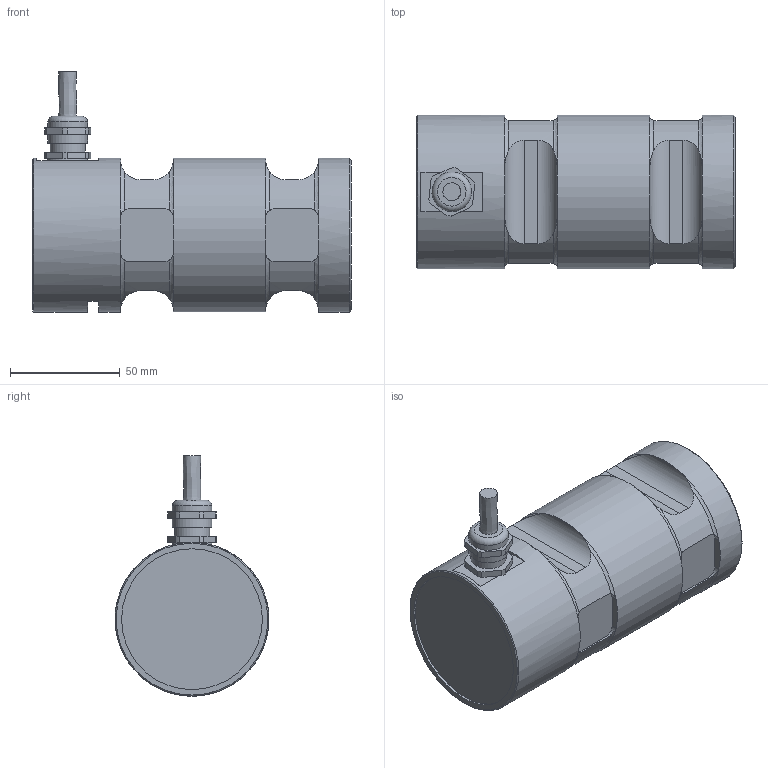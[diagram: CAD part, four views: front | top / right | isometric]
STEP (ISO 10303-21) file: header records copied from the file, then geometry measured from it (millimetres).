
FILE_DESCRIPTION(/* description */ ('Alibre Inc.'),/* implementation_level */ '2;1');
FILE_NAME(/* name */ 'export-1DDA16B0-D6BB-44C4-8E21-F3AB01651962',/* time_stamp */ '2019-02-20T14:30:09+01:00',/* author */ (''),/* organization */ (''),/* preprocessor_version */ 'ST-DEVELOPER v17',/* originating_system */ 'Alibre',/* authorisation */ '');
FILE_SCHEMA (('CONFIG_CONTROL_DESIGN'));
Length unit declared in the file: centimetre
Products named in the file (6): ID_1
Bounding box: 145 x 70 x 109.27 mm (x, y, z)
Volume: 523653.4 mm3; surface area: 46170.9 mm2
Topology: 4 solids, 4 shells, 141 faces, 339 edges, 213 vertices
Faces by surface type: plane 64, cylinder 55, torus 18, cone 3, bspline 1
Full cylindrical faces by diameter (mm): 8 x1, 10 x1, 12 x1, 16 x2, 18 x2, 64 x1, 70 x3
Entity records: 8191 total; most frequent: CARTESIAN_POINT 4829, ORIENTED_EDGE 634, DIRECTION 432, EDGE_CURVE 317, VERTEX_POINT 209, AXIS2_PLACEMENT_3D 180, FACE_BOUND 168, EDGE_LOOP 167
